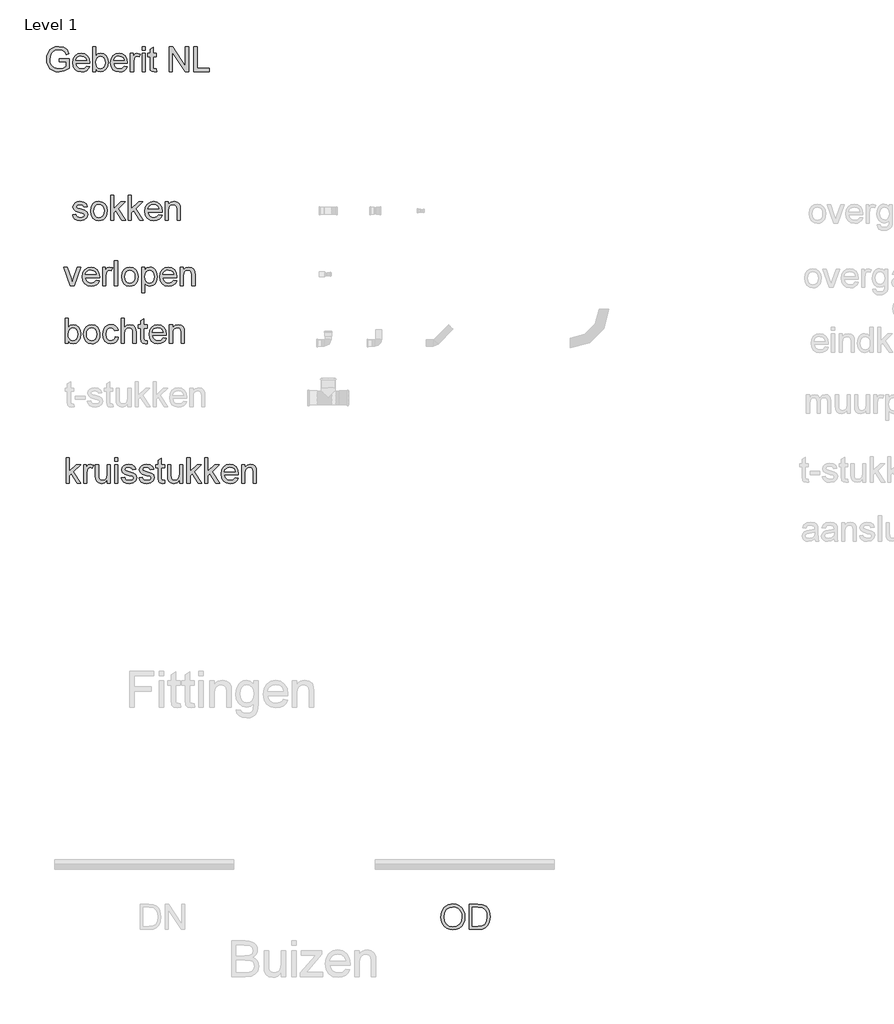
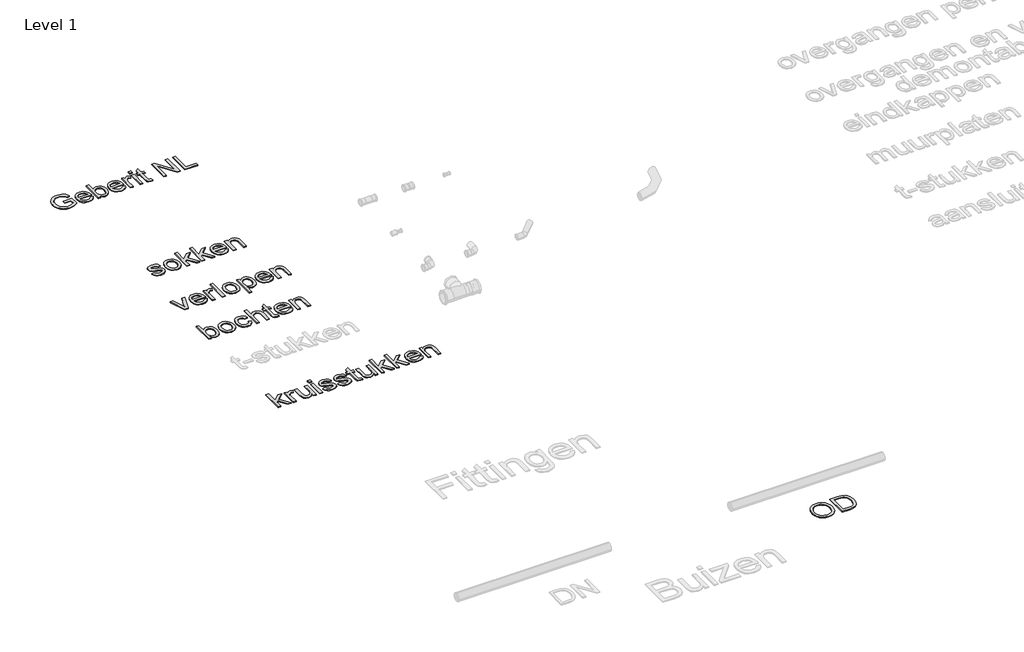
# One storey, part 2 of 7: 6 proxies.
"""IFC4 building model written with IfcOpenShell, lengths in millimetres."""

from ifc_helpers import new_model, si_unit, origin, origin_with_axes, place, context, project, spatial, polyline, outline, extrude, element, save

model = new_model("IFC4")

# Units and contexts
model_context = context("Model", 3, world=origin())
ifc_project = project(units=[si_unit("LENGTHUNIT", "METRE", prefix="MILLI")], contexts=[model_context])

# Site, building, storey
site = spatial("IfcSite", under=ifc_project)
building = spatial("IfcBuilding", under=site)
storey = spatial("IfcBuildingStorey", under=building, Name="Level 1", Elevation=0.0)

# Proxies
placement = place(None, origin())
element("IfcBuildingElementProxy", 1, Name="small", ObjectType="small", at=placement, inside=storey, context=model_context, shape_type="SweptSolid", body=[
    extrude(outline(polyline([(-1914.950544, 6516.8339896), (-1914.950544, 6534.0647588), (-1858.950544, 6534.0647588), (-1858.950544, 6482.5407203), (-1886.5971786, 6466.2859126), (-1915.825544, 6460.8339896), (-1935.1554719, 6463.0004559), (-1952.6260247, 6469.4998549), (-1967.1392459, 6480.1050232), (-1977.5971786, 6494.5887973), (-1983.9198949, 6511.9625953), (-1986.0274671, 6531.2378357), (-1983.9283084, 6550.6518982), (-1977.6308324, 6568.7113934), (-1967.3958565, 6583.8598309), (-1953.4841978, 6594.5407203), (-1936.5394863, 6600.8760569), (-1917.2053517, 6602.9878357), (-1890.2486209, 6598.0912011), (-1871.3519863, 6584.4613934), (-1860.9361209, 6561.6609126), (-1876.8207363, 6557.1849511), (-1884.6789094, 6573.1200473), (-1898.106794, 6582.3075473), (-1917.4745824, 6585.7570665), (-1939.5346786, 6582.0383165), (-1954.544294, 6572.2787011), (-1963.4120824, 6559.0022588), (-1968.7966978, 6531.9445665), (-1967.1771065, 6515.4668021), (-1962.3183324, 6501.9085088), (-1954.3676113, 6491.3664415), (-1943.4721786, 6483.9373549), (-1917.2053517, 6478.0647588), (-1893.6308324, 6482.4902396), (-1876.1813132, 6491.9301434), (-1876.1813132, 6516.8339896), (-1914.950544, 6516.8339896)])), origin_with_axes(), (0.0, 0.0, 1.0), 5.0),
    extrude(outline(polyline([(-1762.2293901, 6493.1416819), (-1745.3351594, 6490.9878357), (-1751.4222988, 6478.2582684), (-1761.1356401, 6468.7426434), (-1774.2564334, 6462.811153), (-1790.5659286, 6460.8339896), (-1810.7834767, 6464.2456482), (-1826.3399671, 6474.4806242), (-1836.2594382, 6490.874254), (-1839.5659286, 6512.7618742), (-1836.2257844, 6535.3856723), (-1826.2053517, 6552.3051434), (-1810.8591978, 6562.8556242), (-1791.5418901, 6566.3724511), (-1772.8261449, 6562.8640376), (-1757.8712171, 6552.3387973), (-1748.0653276, 6535.4529799), (-1744.7966978, 6512.8628357), (-1744.8976594, 6508.2186049), (-1822.3351594, 6508.2186049), (-1819.3525872, 6495.3207684), (-1812.4241017, 6485.8387973), (-1802.4247026, 6480.0082684), (-1790.2293901, 6478.0647588), (-1773.3351594, 6481.6657203), (-1762.2293901, 6493.1416819)]), holes=[polyline([(-1822.3351594, 6525.4493742), (-1762.0274671, 6525.4493742), (-1768.9265055, 6541.0647588), (-1778.9721786, 6547.1224511), (-1791.6091978, 6549.1416819), (-1803.2239815, 6547.530504), (-1812.8279478, 6542.6969703), (-1819.5040296, 6535.1627155), (-1822.3351594, 6525.4493742)])]), origin_with_axes(), (0.0, 0.0, 1.0), 5.0),
    extrude(outline(polyline([(-1710.3351594, 6462.9878357), (-1727.5659286, 6462.9878357), (-1727.5659286, 6600.8339896), (-1710.3351594, 6600.8339896), (-1710.3351594, 6549.7137973), (-1698.2702555, 6562.2077876), (-1683.2774671, 6566.3724511), (-1666.013044, 6562.6200473), (-1652.6188132, 6552.0695665), (-1644.3904478, 6535.6633165), (-1641.4120824, 6515.1176434), (-1644.4956161, 6492.1152396), (-1653.7462171, 6475.0022588), (-1667.3213372, 6464.3760569), (-1683.3784286, 6460.8339896), (-1698.6993421, 6465.4024992), (-1710.3351594, 6479.108028), (-1710.3351594, 6462.9878357)]), holes=[polyline([(-1710.3351594, 6514.3099511), (-1709.1572747, 6499.9397588), (-1705.6236209, 6490.2137973), (-1696.5959767, 6481.1020184), (-1684.8591978, 6478.0647588), (-1674.9144863, 6480.3027396), (-1666.4168901, 6487.0166819), (-1660.5863613, 6498.1645184), (-1658.6428517, 6513.7041819), (-1660.5064334, 6529.4710088), (-1666.0971786, 6540.4926434), (-1674.3297507, 6546.9794223), (-1684.1188132, 6549.1416819), (-1694.0635247, 6546.9037011), (-1702.5611209, 6540.1897588), (-1708.3916497, 6529.2438453), (-1710.3351594, 6514.3099511)])]), origin_with_axes(), (0.0, 0.0, 1.0), 5.0),
    extrude(outline(polyline([(-1551.1524671, 6493.1416819), (-1534.2582363, 6490.9878357), (-1540.3453757, 6478.2582684), (-1550.0587171, 6468.7426434), (-1563.1795103, 6462.811153), (-1579.4890055, 6460.8339896), (-1599.7065536, 6464.2456482), (-1615.263044, 6474.4806242), (-1625.1825151, 6490.874254), (-1628.4890055, 6512.7618742), (-1625.1488613, 6535.3856723), (-1615.1284286, 6552.3051434), (-1599.7822747, 6562.8556242), (-1580.4649671, 6566.3724511), (-1561.7492219, 6562.8640376), (-1546.794294, 6552.3387973), (-1536.9884046, 6535.4529799), (-1533.7197747, 6512.8628357), (-1533.8207363, 6508.2186049), (-1611.2582363, 6508.2186049), (-1608.2756642, 6495.3207684), (-1601.3471786, 6485.8387973), (-1591.3477796, 6480.0082684), (-1579.1524671, 6478.0647588), (-1562.2582363, 6481.6657203), (-1551.1524671, 6493.1416819)]), holes=[polyline([(-1611.2582363, 6525.4493742), (-1550.950544, 6525.4493742), (-1557.8495824, 6541.0647588), (-1567.8952555, 6547.1224511), (-1580.5322747, 6549.1416819), (-1592.1470584, 6547.530504), (-1601.7510247, 6542.6969703), (-1608.4271065, 6535.1627155), (-1611.2582363, 6525.4493742)])]), origin_with_axes(), (0.0, 0.0, 1.0), 5.0),
    extrude(outline(polyline([(-1516.4890055, 6462.9878357), (-1516.4890055, 6564.2186049), (-1501.4120824, 6564.2186049), (-1501.4120824, 6549.2426434), (-1490.7101594, 6563.0407203), (-1479.9409286, 6566.3724511), (-1462.6428517, 6561.0551434), (-1468.3976594, 6545.608028), (-1480.513044, 6549.1416819), (-1490.2558324, 6545.7426434), (-1496.4649671, 6536.3195665), (-1499.2582363, 6516.1945665), (-1499.2582363, 6462.9878357), (-1516.4890055, 6462.9878357)])), origin_with_axes(), (0.0, 0.0, 1.0), 5.0),
    extrude(outline(polyline([(-1451.8736209, 6462.9878357), (-1451.8736209, 6564.2186049), (-1434.6428517, 6564.2186049), (-1434.6428517, 6462.9878357), (-1451.8736209, 6462.9878357)])), origin_with_axes(), (0.0, 0.0, 1.0), 5.0),
    extrude(outline(polyline([(-1451.8736209, 6583.6032203), (-1451.8736209, 6600.8339896), (-1434.6428517, 6600.8339896), (-1434.6428517, 6583.6032203), (-1451.8736209, 6583.6032203)])), origin_with_axes(), (0.0, 0.0, 1.0), 5.0),
    extrude(outline(polyline([(-1372.1813132, 6477.358028), (-1370.0274671, 6462.483028), (-1382.9168901, 6460.8339896), (-1397.3543901, 6463.6945665), (-1404.5563132, 6471.1993742), (-1406.6428517, 6490.7522588), (-1406.6428517, 6546.9878357), (-1419.5659286, 6546.9878357), (-1419.5659286, 6564.2186049), (-1406.6428517, 6564.2186049), (-1406.6428517, 6588.8195665), (-1389.4120824, 6598.9493742), (-1389.4120824, 6564.2186049), (-1372.1813132, 6564.2186049), (-1372.1813132, 6546.9878357), (-1389.4120824, 6546.9878357), (-1389.4120824, 6491.2570665), (-1388.5034286, 6482.3724511), (-1385.5587171, 6479.2258165), (-1379.6861209, 6478.0647588), (-1372.1813132, 6477.358028)])), origin_with_axes(), (0.0, 0.0, 1.0), 5.0),
    extrude(outline(polyline([(-1298.950544, 6462.9878357), (-1298.950544, 6600.8339896), (-1280.5082363, 6600.8339896), (-1208.4890055, 6491.6272588), (-1208.4890055, 6600.8339896), (-1191.2582363, 6600.8339896), (-1191.2582363, 6462.9878357), (-1209.700544, 6462.9878357), (-1281.7197747, 6572.2282203), (-1281.7197747, 6462.9878357), (-1298.950544, 6462.9878357)])), origin_with_axes(), (0.0, 0.0, 1.0), 5.0),
    extrude(outline(polyline([(-1161.1043901, 6462.9878357), (-1161.1043901, 6600.8339896), (-1143.8736209, 6600.8339896), (-1143.8736209, 6480.2186049), (-1074.950544, 6480.2186049), (-1074.950544, 6462.9878357), (-1161.1043901, 6462.9878357)])), origin_with_axes(), (0.0, 0.0, 1.0), 5.0),
])
element("IfcBuildingElementProxy", 2, Name="small", ObjectType="small", at=placement, inside=storey, context=model_context, shape_type="SweptSolid", body=[
    extrude(outline(polyline([(-1840.2916088, 5661.4703642), (-1822.7117545, 5663.667846), (-1819.9391505, 5656.148338), (-1814.5742048, 5650.6202979), (-1795.9299452, 5646.0879918), (-1778.0067344, 5650.2426058), (-1772.1696735, 5659.9939312), (-1778.0410701, 5667.8911313), (-1796.1359592, 5672.9041367), (-1822.6087475, 5681.5052177), (-1834.1626947, 5691.5483962), (-1838.094127, 5705.7290208), (-1834.9352469, 5718.8280724), (-1826.316998, 5728.8369152), (-1815.140743, 5734.0387666), (-1800.0158879, 5736.1847449), (-1778.6247762, 5732.7340118), (-1765.0278577, 5723.3947142), (-1758.9847827, 5707.6174817), (-1776.564637, 5705.4199999), (-1783.1742502, 5715.1198219), (-1798.6424618, 5718.6048906), (-1815.4669317, 5715.2743323), (-1820.5142727, 5707.5144748), (-1818.4197979, 5702.3984625), (-1811.8616882, 5698.5185337), (-1796.7196653, 5694.7759475), (-1770.9164221, 5686.5010552), (-1758.9332793, 5677.127422), (-1754.5898192, 5661.8480564), (-1759.6886636, 5645.0235865), (-1774.4014909, 5632.8172619), (-1796.1702948, 5628.5081375), (-1813.8960756, 5630.5854445), (-1826.8320328, 5636.8173655), (-1835.4674495, 5647.1352292), (-1840.2916088, 5661.4703642)])), origin_with_axes(), (0.0, 0.0, 1.0), 5.0),
    extrude(outline(polyline([(-1739.2074467, 5682.3464412), (-1735.4047731, 5707.2483735), (-1723.9967525, 5724.7509725), (-1709.9019669, 5733.3263018), (-1693.0259936, 5736.1847449), (-1674.5577043, 5732.7039681), (-1659.8062494, 5722.2616377), (-1650.1364711, 5705.6818093), (-1646.9132117, 5683.7885386), (-1648.3381413, 5666.0284222), (-1652.6129301, 5652.5087588), (-1659.6131113, 5642.3840332), (-1669.2142183, 5634.8087298), (-1680.617947, 5630.0832856), (-1693.0259936, 5628.5081375), (-1711.7174646, 5631.9760384), (-1726.4517516, 5642.3797412), (-1736.0185229, 5659.3072181), (-1739.2074467, 5682.3464412)]), holes=[polyline([(-1721.6275924, 5682.3807769), (-1719.593205, 5666.4704937), (-1713.4900427, 5655.1354363), (-1704.3052555, 5648.3498529), (-1693.0259936, 5646.0879918), (-1681.7982351, 5648.3627288), (-1672.6306157, 5655.1869398), (-1666.5274534, 5666.6722157), (-1664.493066, 5682.9301473), (-1666.5403293, 5698.3768991), (-1672.6821192, 5709.5574461), (-1681.8626144, 5716.3430295), (-1693.0259936, 5718.6048906), (-1704.3052555, 5716.3516134), (-1713.4900427, 5709.5917818), (-1719.593205, 5698.2824761), (-1721.6275924, 5682.3807769)])]), origin_with_axes(), (0.0, 0.0, 1.0), 5.0),
    extrude(outline(polyline([(-1627.1358757, 5630.7056193), (-1627.1358757, 5771.3444535), (-1609.5560214, 5771.3444535), (-1609.5560214, 5695.7716815), (-1570.1386919, 5733.9872631), (-1545.8290496, 5733.9872631), (-1585.7270783, 5695.2909823), (-1543.6315679, 5630.7056193), (-1564.1642883, 5630.7056193), (-1598.3282629, 5683.0674899), (-1609.5560214, 5672.1830879), (-1609.5560214, 5630.7056193), (-1627.1358757, 5630.7056193)])), origin_with_axes(), (0.0, 0.0, 1.0), 5.0),
    extrude(outline(polyline([(-1528.2491954, 5630.7056193), (-1528.2491954, 5771.3444535), (-1510.6693411, 5771.3444535), (-1510.6693411, 5695.7716815), (-1471.2520116, 5733.9872631), (-1446.9423693, 5733.9872631), (-1486.840398, 5695.2909823), (-1444.7448876, 5630.7056193), (-1465.277608, 5630.7056193), (-1499.4415826, 5683.0674899), (-1510.6693411, 5672.1830879), (-1510.6693411, 5630.7056193), (-1528.2491954, 5630.7056193)])), origin_with_axes(), (0.0, 0.0, 1.0), 5.0),
    extrude(outline(polyline([(-1357.0516301, 5661.4703642), (-1339.8151323, 5659.2728825), (-1346.0255936, 5646.2854218), (-1355.9357214, 5636.5770159), (-1369.322334, 5630.5253571), (-1385.9622498, 5628.5081375), (-1406.5893933, 5631.9889143), (-1422.4610488, 5642.4312447), (-1432.5814825, 5659.1569996), (-1435.9549604, 5681.4880499), (-1432.5471469, 5704.5701925), (-1422.3237062, 5721.832442), (-1406.6666485, 5732.5966692), (-1386.9579838, 5736.1847449), (-1367.8630688, 5732.6052531), (-1352.605163, 5721.8667777), (-1342.6006122, 5704.6388638), (-1339.2657619, 5681.5910568), (-1339.3687689, 5676.8527367), (-1418.3751061, 5676.8527367), (-1415.3321089, 5663.6935978), (-1408.2632564, 5654.0195276), (-1398.0612755, 5648.0708757), (-1385.6188933, 5646.0879918), (-1368.3823955, 5649.7619066), (-1357.0516301, 5661.4703642)]), holes=[polyline([(-1418.3751061, 5694.432591), (-1356.8456162, 5694.432591), (-1363.884425, 5710.364334), (-1374.1336174, 5716.5447515), (-1387.0266551, 5718.6048906), (-1398.8767473, 5716.9610713), (-1408.6752842, 5712.0296131), (-1415.4866193, 5704.3427188), (-1418.3751061, 5694.432591)])]), origin_with_axes(), (0.0, 0.0, 1.0), 5.0),
    extrude(outline(polyline([(-1321.6859076, 5630.7056193), (-1321.6859076, 5733.9872631), (-1304.1060533, 5733.9872631), (-1304.1060533, 5719.5662889), (-1290.6636452, 5732.0301309), (-1272.3112388, 5736.1847449), (-1255.7099506, 5732.8370188), (-1244.3791852, 5724.0470916), (-1239.1086624, 5711.1197183), (-1238.1815998, 5694.1235701), (-1238.1815998, 5630.7056193), (-1255.7614541, 5630.7056193), (-1255.7614541, 5691.7544101), (-1257.7872576, 5707.3084608), (-1264.9462412, 5715.5318497), (-1277.0152232, 5718.6048906), (-1287.3116271, 5716.8795241), (-1296.0886784, 5711.7034244), (-1302.1017096, 5701.7031655), (-1304.1060533, 5685.5053213), (-1304.1060533, 5630.7056193), (-1321.6859076, 5630.7056193)])), origin_with_axes(), (0.0, 0.0, 1.0), 5.0),
])
element("IfcBuildingElementProxy", 3, Name="small", ObjectType="small", at=placement, inside=storey, context=model_context, shape_type="SweptSolid", body=[
    extrude(outline(polyline([(-1852.9133657, 5263.7178127), (-1889.2404865, 5366.9994566), (-1870.6305626, 5366.9994566), (-1848.6214091, 5305.1266101), (-1841.9946281, 5284.3192045), (-1835.5051897, 5303.9591979), (-1813.3586936, 5366.9994566), (-1794.7487698, 5366.9994566), (-1830.629527, 5263.7178127), (-1852.9133657, 5263.7178127)])), origin_with_axes(), (0.0, 0.0, 1.0), 5.0),
    extrude(outline(polyline([(-1707.0555123, 5294.4825577), (-1689.8190145, 5292.2850759), (-1696.0294758, 5279.2976152), (-1705.9396036, 5269.5892094), (-1719.3262162, 5263.5375506), (-1735.966132, 5261.520331), (-1756.5932755, 5265.0011078), (-1772.464931, 5275.4434382), (-1782.5853647, 5292.1691931), (-1785.9588426, 5314.5002434), (-1782.5510291, 5337.582386), (-1772.3275884, 5354.8446355), (-1756.6705307, 5365.6088627), (-1736.961866, 5369.1969384), (-1717.866951, 5365.6174466), (-1702.6090452, 5354.8789712), (-1692.6044944, 5337.6510573), (-1689.2696441, 5314.6032503), (-1689.3726511, 5309.8649302), (-1768.3789883, 5309.8649302), (-1765.3359911, 5296.7057913), (-1758.2671386, 5287.0317211), (-1748.0651577, 5281.0830692), (-1735.6227755, 5279.1001852), (-1718.3862777, 5282.7741001), (-1707.0555123, 5294.4825577)]), holes=[polyline([(-1768.3789883, 5327.4447845), (-1706.8494984, 5327.4447845), (-1713.8883072, 5343.3765274), (-1724.1374996, 5349.556945), (-1737.0305373, 5351.6170841), (-1748.8806295, 5349.9732647), (-1758.6791664, 5345.0418066), (-1765.4905015, 5337.3549123), (-1768.3789883, 5327.4447845)])]), origin_with_axes(), (0.0, 0.0, 1.0), 5.0),
    extrude(outline(polyline([(-1671.6897898, 5263.7178127), (-1671.6897898, 5366.9994566), (-1656.3074173, 5366.9994566), (-1656.3074173, 5351.7200911), (-1645.3886797, 5365.7977088), (-1634.4012708, 5369.1969384), (-1616.7527452, 5363.7719053), (-1622.6241419, 5348.0118406), (-1634.9849769, 5351.6170841), (-1644.9251484, 5348.1491832), (-1651.2600764, 5338.5352004), (-1654.1099355, 5318.00248), (-1654.1099355, 5263.7178127), (-1671.6897898, 5263.7178127)])), origin_with_axes(), (0.0, 0.0, 1.0), 5.0),
    extrude(outline(polyline([(-1605.7653363, 5263.7178127), (-1605.7653363, 5404.356647), (-1588.185482, 5404.356647), (-1588.185482, 5263.7178127), (-1605.7653363, 5263.7178127)])), origin_with_axes(), (0.0, 0.0, 1.0), 5.0),
    extrude(outline(polyline([(-1566.2106642, 5315.3586347), (-1562.4079906, 5340.2605669), (-1550.9999699, 5357.763166), (-1536.9051844, 5366.3384953), (-1520.029211, 5369.1969384), (-1501.5609217, 5365.7161616), (-1486.8094669, 5355.2738312), (-1477.1396886, 5338.6940028), (-1473.9164292, 5316.8007321), (-1475.3413588, 5299.0406157), (-1479.6161476, 5285.5209523), (-1486.6163288, 5275.3962267), (-1496.2174358, 5267.8209233), (-1507.6211645, 5263.095479), (-1520.029211, 5261.520331), (-1538.7206821, 5264.9882319), (-1553.4549691, 5275.3919347), (-1563.0217404, 5292.3194116), (-1566.2106642, 5315.3586347)]), holes=[polyline([(-1548.6308099, 5315.3929703), (-1546.5964225, 5299.4826872), (-1540.4932602, 5288.1476298), (-1531.308473, 5281.3620464), (-1520.029211, 5279.1001852), (-1508.8014525, 5281.3749222), (-1499.6338332, 5288.1991333), (-1493.5306709, 5299.6844091), (-1491.4962835, 5315.9423408), (-1493.5435468, 5331.3890926), (-1499.6853367, 5342.5696396), (-1508.8658319, 5349.355223), (-1520.029211, 5351.6170841), (-1531.308473, 5349.3638069), (-1540.4932602, 5342.6039752), (-1546.5964225, 5331.2946696), (-1548.6308099, 5315.3929703)])]), origin_with_axes(), (0.0, 0.0, 1.0), 5.0),
    extrude(outline(polyline([(-1454.1390932, 5224.1631406), (-1454.1390932, 5366.9994566), (-1436.5592389, 5366.9994566), (-1436.5592389, 5349.7629589), (-1424.4044178, 5364.3384435), (-1407.9919757, 5369.1969384), (-1396.1032559, 5367.4973236), (-1385.708137, 5362.3984791), (-1377.2443985, 5354.2094259), (-1371.1498201, 5343.2391848), (-1366.2398218, 5316.1483547), (-1371.7850297, 5287.6669306), (-1378.583489, 5276.4906756), (-1387.8884509, 5268.2672868), (-1398.7256414, 5263.2070699), (-1410.1207862, 5261.520331), (-1425.4173195, 5266.0354693), (-1436.5592389, 5277.4520739), (-1436.5592389, 5224.1631406), (-1454.1390932, 5224.1631406)]), holes=[polyline([(-1436.5592389, 5314.534579), (-1434.6579021, 5298.7745143), (-1428.9538918, 5287.7527698), (-1420.5373649, 5281.2633314), (-1410.4984783, 5279.1001852), (-1400.2964975, 5281.3405866), (-1391.6653727, 5288.0617906), (-1385.7811002, 5299.4869791), (-1383.8196761, 5315.8393338), (-1385.7338887, 5331.5135594), (-1391.4765266, 5342.6898144), (-1399.8801777, 5349.3852667), (-1409.7774296, 5351.6170841), (-1419.7133092, 5349.2436321), (-1428.438857, 5342.1232761), (-1434.5291434, 5330.4791978), (-1436.5592389, 5314.534579)])]), origin_with_axes(), (0.0, 0.0, 1.0), 5.0),
    extrude(outline(polyline([(-1274.1516007, 5294.4825577), (-1256.915103, 5292.2850759), (-1263.1255642, 5279.2976152), (-1273.035692, 5269.5892094), (-1286.4223047, 5263.5375506), (-1303.0622205, 5261.520331), (-1323.6893639, 5265.0011078), (-1339.5610195, 5275.4434382), (-1349.6814532, 5292.1691931), (-1353.0549311, 5314.5002434), (-1349.6471175, 5337.582386), (-1339.4236769, 5354.8446355), (-1323.7666192, 5365.6088627), (-1304.0579544, 5369.1969384), (-1284.9630394, 5365.6174466), (-1269.7051337, 5354.8789712), (-1259.7005828, 5337.6510573), (-1256.3657325, 5314.6032503), (-1256.4687395, 5309.8649302), (-1335.4750768, 5309.8649302), (-1332.4320796, 5296.7057913), (-1325.363227, 5287.0317211), (-1315.1612462, 5281.0830692), (-1302.7188639, 5279.1001852), (-1285.4823662, 5282.7741001), (-1274.1516007, 5294.4825577)]), holes=[polyline([(-1335.4750768, 5327.4447845), (-1273.9455868, 5327.4447845), (-1280.9843957, 5343.3765274), (-1291.2335881, 5349.556945), (-1304.1266257, 5351.6170841), (-1315.9767179, 5349.9732647), (-1325.7752549, 5345.0418066), (-1332.58659, 5337.3549123), (-1335.4750768, 5327.4447845)])]), origin_with_axes(), (0.0, 0.0, 1.0), 5.0),
    extrude(outline(polyline([(-1238.7858783, 5263.7178127), (-1238.7858783, 5366.9994566), (-1221.206024, 5366.9994566), (-1221.206024, 5352.5784824), (-1207.7636159, 5365.0423244), (-1189.4112094, 5369.1969384), (-1172.8099213, 5365.8492123), (-1161.4791558, 5357.0592851), (-1156.2086331, 5344.1319118), (-1155.2815705, 5327.1357636), (-1155.2815705, 5263.7178127), (-1172.8614247, 5263.7178127), (-1172.8614247, 5324.7666036), (-1174.8872283, 5340.3206543), (-1182.0462119, 5348.5440432), (-1194.1151939, 5351.6170841), (-1204.4115978, 5349.8917176), (-1213.188649, 5344.7156179), (-1219.2016803, 5334.715359), (-1221.206024, 5318.5175148), (-1221.206024, 5263.7178127), (-1238.7858783, 5263.7178127)])), origin_with_axes(), (0.0, 0.0, 1.0), 5.0),
])
element("IfcBuildingElementProxy", 4, Name="small", ObjectType="small", at=placement, inside=storey, context=model_context, shape_type="SweptSolid", body=[
    extrude(outline(polyline([(-1865.0278069, 4941.5249471), (-1882.6076612, 4941.5249471), (-1882.6076612, 5082.1637813), (-1865.0278069, 5082.1637813), (-1865.0278069, 5030.0079246), (-1852.7184754, 5042.7550357), (-1837.421942, 5047.0040728), (-1819.8077521, 5043.1756475), (-1806.1421622, 5032.4114203), (-1797.7470951, 5015.6727895), (-1794.7083898, 4994.7108734), (-1797.854394, 4971.2424547), (-1807.2924066, 4953.7827752), (-1821.1425506, 4942.9412928), (-1837.524949, 4939.3274653), (-1853.1562549, 4943.9885302), (-1865.0278069, 4957.9717248), (-1865.0278069, 4941.5249471)]), holes=[polyline([(-1865.0278069, 4993.8868177), (-1863.8260591, 4979.225494), (-1860.2208155, 4969.3024903), (-1851.0102766, 4960.0061123), (-1839.0357177, 4956.9073196), (-1828.8895323, 4959.1906405), (-1820.2197799, 4966.0406033), (-1814.271128, 4977.4142883), (-1812.2882441, 4993.268776), (-1814.1895809, 5009.3550294), (-1819.8935912, 5020.5999557), (-1828.2929503, 5027.2181528), (-1838.2803333, 5029.4242185), (-1848.4265188, 5027.1408976), (-1857.0962711, 5020.2909348), (-1863.044923, 5009.1232637), (-1865.0278069, 4993.8868177)])]), origin_with_axes(), (0.0, 0.0, 1.0), 5.0),
    extrude(outline(polyline([(-1779.3260173, 4993.165769), (-1775.5233438, 5018.0677013), (-1764.1153231, 5035.5703003), (-1750.0205376, 5044.1456297), (-1733.1445642, 5047.0040728), (-1714.6762749, 5043.5232959), (-1699.92482, 5033.0809655), (-1690.2550418, 5016.5011371), (-1687.0317824, 4994.6078665), (-1688.456712, 4976.84775), (-1692.7315008, 4963.3280867), (-1699.731682, 4953.203361), (-1709.3327889, 4945.6280576), (-1720.7365176, 4940.9026134), (-1733.1445642, 4939.3274653), (-1751.8360352, 4942.7953663), (-1766.5703223, 4953.1990691), (-1776.1370936, 4970.126546), (-1779.3260173, 4993.165769)]), holes=[polyline([(-1761.746163, 4993.2001047), (-1759.7117756, 4977.2898215), (-1753.6086133, 4965.9547641), (-1744.4238262, 4959.1691807), (-1733.1445642, 4956.9073196), (-1721.9168057, 4959.1820566), (-1712.7491864, 4966.0062676), (-1706.6460241, 4977.4915435), (-1704.6116366, 4993.7494751), (-1706.6589, 5009.196227), (-1712.8006899, 5020.3767739), (-1721.9811851, 5027.1623573), (-1733.1445642, 5029.4242185), (-1744.4238262, 5027.1709413), (-1753.6086133, 5020.4111096), (-1759.7117756, 5009.1018039), (-1761.746163, 4993.2001047)])]), origin_with_axes(), (0.0, 0.0, 1.0), 5.0),
    extrude(outline(polyline([(-1601.3299928, 4978.8821374), (-1583.7501385, 4976.6846557), (-1588.651553, 4961.0490577), (-1597.8620918, 4949.2333012), (-1610.5147799, 4941.8039243), (-1625.742642, 4939.3274653), (-1644.4426969, 4942.7824904), (-1659.0653931, 4953.1475656), (-1668.5034057, 4969.9677436), (-1671.6494099, 4992.7880769), (-1666.2758802, 5021.9905496), (-1659.4945888, 5032.9393309), (-1649.8977738, 5040.7549839), (-1638.4167898, 5045.4418006), (-1625.9829915, 5047.0040728), (-1611.1285297, 5044.8580945), (-1599.2526858, 5038.4201595), (-1590.7331519, 5028.0336245), (-1585.9476203, 5014.041846), (-1603.5274746, 5011.8443642), (-1611.6821921, 5025.0120871), (-1625.8456489, 5029.4242185), (-1637.2064581, 5027.2524884), (-1646.2238589, 5020.7372983), (-1652.1081314, 5009.5267076), (-1654.0695556, 4993.268776), (-1652.151051, 4976.7919546), (-1646.3955372, 4965.5427363), (-1637.5412307, 4959.0661738), (-1626.3263481, 4956.9073196), (-1609.7593956, 4962.2980171), (-1604.3300704, 4969.1393959), (-1601.3299928, 4978.8821374)])), origin_with_axes(), (0.0, 0.0, 1.0), 5.0),
    extrude(outline(polyline([(-1568.367766, 4941.5249471), (-1568.367766, 5082.1637813), (-1550.7879117, 5082.1637813), (-1550.7879117, 5030.4542881), (-1537.0794023, 5042.8666266), (-1520.194845, 5047.0040728), (-1500.4518446, 5042.4889344), (-1488.4687018, 5030.0079246), (-1484.8634582, 5006.9000302), (-1484.8634582, 4941.5249471), (-1502.4433125, 4941.5249471), (-1502.4433125, 5005.0802406), (-1503.8424903, 5016.0848173), (-1508.0400239, 5023.6214931), (-1514.8041475, 5027.9735371), (-1523.9030955, 5029.4242185), (-1538.3069019, 5025.5099541), (-1547.9208847, 5014.9002373), (-1550.7879117, 4996.3933204), (-1550.7879117, 4941.5249471), (-1568.367766, 4941.5249471)])), origin_with_axes(), (0.0, 0.0, 1.0), 5.0),
    extrude(outline(polyline([(-1423.3339682, 4956.1862709), (-1421.1364864, 4941.0099123), (-1434.2870415, 4939.3274653), (-1449.0170366, 4942.2459958), (-1456.3648663, 4949.9028464), (-1458.4936768, 4969.8518607), (-1458.4936768, 5027.2267367), (-1471.6785675, 5027.2267367), (-1471.6785675, 5044.806591), (-1458.4936768, 5044.806591), (-1458.4936768, 5069.9059532), (-1440.9138225, 5080.2409847), (-1440.9138225, 5044.806591), (-1423.3339682, 5044.806591), (-1423.3339682, 5027.2267367), (-1440.9138225, 5027.2267367), (-1440.9138225, 4970.3668955), (-1439.9867599, 4961.3022832), (-1436.9823903, 4958.0918996), (-1430.9908188, 4956.9073196), (-1423.3339682, 4956.1862709)])), origin_with_axes(), (0.0, 0.0, 1.0), 5.0),
    extrude(outline(polyline([(-1333.443229, 4972.2896921), (-1316.2067312, 4970.0922103), (-1322.4171925, 4957.1047496), (-1332.3273203, 4947.3963437), (-1345.7139329, 4941.3446849), (-1362.3538487, 4939.3274653), (-1382.9809922, 4942.8082421), (-1398.8526477, 4953.2505726), (-1408.9730814, 4969.9763275), (-1412.3465593, 4992.3073777), (-1408.9387458, 5015.3895204), (-1398.7153051, 5032.6517699), (-1383.0582474, 5043.415997), (-1363.3495826, 5047.0040728), (-1344.2546677, 5043.4245809), (-1328.9967619, 5032.6861055), (-1318.9922111, 5015.4581917), (-1315.6573608, 4992.4103847), (-1315.7603677, 4987.6720646), (-1394.766705, 4987.6720646), (-1391.7237078, 4974.5129256), (-1384.6548553, 4964.8388554), (-1374.4528744, 4958.8902035), (-1362.0104922, 4956.9073196), (-1344.7739944, 4960.5812345), (-1333.443229, 4972.2896921)]), holes=[polyline([(-1394.766705, 5005.2519189), (-1333.2372151, 5005.2519189), (-1340.2760239, 5021.1836618), (-1350.5252163, 5027.3640793), (-1363.4182539, 5029.4242185), (-1375.2683462, 5027.7803991), (-1385.0668831, 5022.848941), (-1391.8782182, 5015.1620467), (-1394.766705, 5005.2519189)])]), origin_with_axes(), (0.0, 0.0, 1.0), 5.0),
    extrude(outline(polyline([(-1298.0775065, 4941.5249471), (-1298.0775065, 5044.806591), (-1280.4976522, 5044.806591), (-1280.4976522, 5030.3856168), (-1267.0552441, 5042.8494588), (-1248.7028377, 5047.0040728), (-1232.1015495, 5043.6563466), (-1220.770784, 5034.8664195), (-1215.5002613, 5021.9390462), (-1214.5731987, 5004.942898), (-1214.5731987, 4941.5249471), (-1232.153053, 4941.5249471), (-1232.153053, 5002.5737379), (-1234.1788565, 5018.1277887), (-1241.3378401, 5026.3511775), (-1253.4068221, 5029.4242185), (-1263.703226, 5027.6988519), (-1272.4802773, 5022.5227523), (-1278.4933085, 5012.5224933), (-1280.4976522, 4996.3246491), (-1280.4976522, 4941.5249471), (-1298.0775065, 4941.5249471)])), origin_with_axes(), (0.0, 0.0, 1.0), 5.0),
])
element("IfcBuildingElementProxy", 5, Name="small", ObjectType="small", at=placement, inside=storey, context=model_context, shape_type="SweptSolid", body=[
    extrude(outline(polyline([(-1877.0620404, 4160.0304932), (-1877.0620404, 4300.6693274), (-1859.4821861, 4300.6693274), (-1859.4821861, 4225.0965554), (-1820.0648566, 4263.3121371), (-1795.7552144, 4263.3121371), (-1835.653243, 4224.6158563), (-1793.5577326, 4160.0304932), (-1814.090453, 4160.0304932), (-1848.2544277, 4212.3923638), (-1859.4821861, 4201.5079619), (-1859.4821861, 4160.0304932), (-1877.0620404, 4160.0304932)])), origin_with_axes(), (0.0, 0.0, 1.0), 5.0),
    extrude(outline(polyline([(-1778.1753601, 4160.0304932), (-1778.1753601, 4263.3121371), (-1762.7929876, 4263.3121371), (-1762.7929876, 4248.0327715), (-1751.87425, 4262.1103892), (-1740.8868411, 4265.5096188), (-1723.2383155, 4260.0845857), (-1729.1097121, 4244.324521), (-1741.4705472, 4247.9297646), (-1751.4107187, 4244.4618636), (-1757.7456467, 4234.8478808), (-1760.5955058, 4214.3151604), (-1760.5955058, 4160.0304932), (-1778.1753601, 4160.0304932)])), origin_with_axes(), (0.0, 0.0, 1.0), 5.0),
    extrude(outline(polyline([(-1646.326453, 4160.0304932), (-1646.326453, 4177.7820257), (-1660.0950499, 4162.820265), (-1678.0525963, 4157.8330114), (-1694.5852132, 4161.335248), (-1705.9846499, 4170.1251751), (-1711.220837, 4183.0697163), (-1712.2509066, 4199.413487), (-1712.2509066, 4263.3121371), (-1694.6710523, 4263.3121371), (-1694.6710523, 4207.6883794), (-1693.6066471, 4189.7651686), (-1686.6536774, 4179.241291), (-1673.5546258, 4175.4128657), (-1658.8761342, 4179.3271301), (-1649.1763122, 4189.9883503), (-1646.326453, 4209.5768403), (-1646.326453, 4263.3121371), (-1628.7465988, 4263.3121371), (-1628.7465988, 4160.0304932), (-1646.326453, 4160.0304932)])), origin_with_axes(), (0.0, 0.0, 1.0), 5.0),
    extrude(outline(polyline([(-1604.5742991, 4160.0304932), (-1604.5742991, 4263.3121371), (-1586.9944449, 4263.3121371), (-1586.9944449, 4160.0304932), (-1604.5742991, 4160.0304932)])), origin_with_axes(), (0.0, 0.0, 1.0), 5.0),
    extrude(outline(polyline([(-1604.5742991, 4283.0894731), (-1604.5742991, 4300.6693274), (-1586.9944449, 4300.6693274), (-1586.9944449, 4283.0894731), (-1604.5742991, 4283.0894731)])), origin_with_axes(), (0.0, 0.0, 1.0), 5.0),
    extrude(outline(polyline([(-1567.2171088, 4190.7952382), (-1549.6372545, 4192.99272), (-1546.8646506, 4185.473212), (-1541.4997048, 4179.9451719), (-1522.8554453, 4175.4128657), (-1504.9322345, 4179.5674797), (-1499.0951735, 4189.3188051), (-1504.9665701, 4197.2160053), (-1523.0614592, 4202.2290106), (-1549.5342476, 4210.8300916), (-1561.0881948, 4220.8732701), (-1565.019627, 4235.0538947), (-1561.860747, 4248.1529463), (-1553.2424981, 4258.1617891), (-1542.0662431, 4263.3636405), (-1526.941388, 4265.5096188), (-1505.5502762, 4262.0588857), (-1491.9533577, 4252.7195881), (-1485.9102828, 4236.9423557), (-1503.4901371, 4234.7448739), (-1510.0997502, 4244.4446958), (-1525.5679619, 4247.9297646), (-1542.3924318, 4244.5992062), (-1547.4397727, 4236.8393487), (-1545.3452979, 4231.7233364), (-1538.7871882, 4227.8434076), (-1523.6451653, 4224.1008215), (-1497.8419222, 4215.8259291), (-1485.8587793, 4206.4522959), (-1481.5153192, 4191.1729304), (-1486.6141637, 4174.3484604), (-1501.3269909, 4162.1421358), (-1523.0957949, 4157.8330114), (-1540.8215757, 4159.9103184), (-1553.7575329, 4166.1422394), (-1562.3929496, 4176.4601031), (-1567.2171088, 4190.7952382)])), origin_with_axes(), (0.0, 0.0, 1.0), 5.0),
    extrude(outline(polyline([(-1468.3304285, 4190.7952382), (-1450.7505742, 4192.99272), (-1447.9779703, 4185.473212), (-1442.6130245, 4179.9451719), (-1423.968765, 4175.4128657), (-1406.0455542, 4179.5674797), (-1400.2084932, 4189.3188051), (-1406.0798898, 4197.2160053), (-1424.1747789, 4202.2290106), (-1450.6475673, 4210.8300916), (-1462.2015145, 4220.8732701), (-1466.1329467, 4235.0538947), (-1462.9740667, 4248.1529463), (-1454.3558178, 4258.1617891), (-1443.1795628, 4263.3636405), (-1428.0547077, 4265.5096188), (-1406.6635959, 4262.0588857), (-1393.0666774, 4252.7195881), (-1387.0236025, 4236.9423557), (-1404.6034568, 4234.7448739), (-1411.2130699, 4244.4446958), (-1426.6812816, 4247.9297646), (-1443.5057515, 4244.5992062), (-1448.5530924, 4236.8393487), (-1446.4586176, 4231.7233364), (-1439.9005079, 4227.8434076), (-1424.758485, 4224.1008215), (-1398.9552419, 4215.8259291), (-1386.972099, 4206.4522959), (-1382.6286389, 4191.1729304), (-1387.7274834, 4174.3484604), (-1402.4403106, 4162.1421358), (-1424.2091145, 4157.8330114), (-1441.9348953, 4159.9103184), (-1454.8708526, 4166.1422394), (-1463.5062693, 4176.4601031), (-1468.3304285, 4190.7952382)])), origin_with_axes(), (0.0, 0.0, 1.0), 5.0),
    extrude(outline(polyline([(-1325.4941125, 4174.691817), (-1323.2966307, 4159.5154584), (-1336.4471858, 4157.8330114), (-1351.1771809, 4160.7515419), (-1358.5250106, 4168.4083925), (-1360.6538211, 4188.3574068), (-1360.6538211, 4245.7322828), (-1373.8387118, 4245.7322828), (-1373.8387118, 4263.3121371), (-1360.6538211, 4263.3121371), (-1360.6538211, 4288.4114993), (-1343.0739668, 4298.7465308), (-1343.0739668, 4263.3121371), (-1325.4941125, 4263.3121371), (-1325.4941125, 4245.7322828), (-1343.0739668, 4245.7322828), (-1343.0739668, 4188.8724416), (-1342.1469042, 4179.8078293), (-1339.1425345, 4176.5974457), (-1333.1509631, 4175.4128657), (-1325.4941125, 4174.691817)])), origin_with_axes(), (0.0, 0.0, 1.0), 5.0),
    extrude(outline(polyline([(-1241.9898047, 4160.0304932), (-1241.9898047, 4177.7820257), (-1255.7584015, 4162.820265), (-1273.715948, 4157.8330114), (-1290.2485648, 4161.335248), (-1301.6480016, 4170.1251751), (-1306.8841886, 4183.0697163), (-1307.9142582, 4199.413487), (-1307.9142582, 4263.3121371), (-1290.334404, 4263.3121371), (-1290.334404, 4207.6883794), (-1289.2699987, 4189.7651686), (-1282.317029, 4179.241291), (-1269.2179774, 4175.4128657), (-1254.5394858, 4179.3271301), (-1244.8396639, 4189.9883503), (-1241.9898047, 4209.5768403), (-1241.9898047, 4263.3121371), (-1224.4099504, 4263.3121371), (-1224.4099504, 4160.0304932), (-1241.9898047, 4160.0304932)])), origin_with_axes(), (0.0, 0.0, 1.0), 5.0),
    extrude(outline(polyline([(-1200.2376508, 4160.0304932), (-1200.2376508, 4300.6693274), (-1182.6577965, 4300.6693274), (-1182.6577965, 4225.0965554), (-1143.240467, 4263.3121371), (-1118.9308248, 4263.3121371), (-1158.8288534, 4224.6158563), (-1116.733343, 4160.0304932), (-1137.2660634, 4160.0304932), (-1171.430038, 4212.3923638), (-1182.6577965, 4201.5079619), (-1182.6577965, 4160.0304932), (-1200.2376508, 4160.0304932)])), origin_with_axes(), (0.0, 0.0, 1.0), 5.0),
    extrude(outline(polyline([(-1101.3509705, 4160.0304932), (-1101.3509705, 4300.6693274), (-1083.7711162, 4300.6693274), (-1083.7711162, 4225.0965554), (-1044.3537867, 4263.3121371), (-1020.0441445, 4263.3121371), (-1059.9421731, 4224.6158563), (-1017.8466627, 4160.0304932), (-1038.3793831, 4160.0304932), (-1072.5433577, 4212.3923638), (-1083.7711162, 4201.5079619), (-1083.7711162, 4160.0304932), (-1101.3509705, 4160.0304932)])), origin_with_axes(), (0.0, 0.0, 1.0), 5.0),
    extrude(outline(polyline([(-930.1534052, 4190.7952382), (-912.9169075, 4188.5977564), (-919.1273687, 4175.6102957), (-929.0374965, 4165.9018898), (-942.4241092, 4159.850231), (-959.0640249, 4157.8330114), (-979.6911684, 4161.3137882), (-995.562824, 4171.7561187), (-1005.6832576, 4188.4818736), (-1009.0567355, 4210.8129238), (-1005.648922, 4233.8950665), (-995.4254813, 4251.1573159), (-979.7684236, 4261.9215431), (-960.0597589, 4265.5096188), (-940.9648439, 4261.930127), (-925.7069382, 4251.1916516), (-915.7023873, 4233.9637378), (-912.367537, 4210.9159308), (-912.470544, 4206.1776107), (-991.4768813, 4206.1776107), (-988.433884, 4193.0184717), (-981.3650315, 4183.3444015), (-971.1630506, 4177.3957496), (-958.7206684, 4175.4128657), (-941.4841707, 4179.0867805), (-930.1534052, 4190.7952382)]), holes=[polyline([(-991.4768813, 4223.7574649), (-929.9473913, 4223.7574649), (-936.9862001, 4239.6892079), (-947.2353925, 4245.8696254), (-960.1284302, 4247.9297646), (-971.9785224, 4246.2859452), (-981.7770593, 4241.354487), (-988.5883945, 4233.6675928), (-991.4768813, 4223.7574649)])]), origin_with_axes(), (0.0, 0.0, 1.0), 5.0),
    extrude(outline(polyline([(-894.7876827, 4160.0304932), (-894.7876827, 4263.3121371), (-877.2078285, 4263.3121371), (-877.2078285, 4248.8911629), (-863.7654204, 4261.3550049), (-845.4130139, 4265.5096188), (-828.8117257, 4262.1618927), (-817.4809603, 4253.3719656), (-812.2104376, 4240.4445922), (-811.2833749, 4223.4484441), (-811.2833749, 4160.0304932), (-828.8632292, 4160.0304932), (-828.8632292, 4221.079284), (-830.8890327, 4236.6333348), (-838.0480164, 4244.8567236), (-850.1169983, 4247.9297646), (-860.4134022, 4246.204398), (-869.1904535, 4241.0282983), (-875.2034847, 4231.0280394), (-877.2078285, 4214.8301952), (-877.2078285, 4160.0304932), (-894.7876827, 4160.0304932)])), origin_with_axes(), (0.0, 0.0, 1.0), 5.0),
])
element("IfcBuildingElementProxy", 6, Name="small", ObjectType="small", at=placement, inside=storey, context=model_context, shape_type="SweptSolid", body=[
    extrude(outline(polyline([(221.0465338, 1730.9036609), (225.7333504, 1762.0031785), (239.7938003, 1785.5316846), (261.2621673, 1800.3389349), (288.1727352, 1805.274685), (306.6195647, 1802.9570285), (323.1607655, 1796.0040588), (336.8950266, 1784.905059), (346.9210373, 1770.1493122), (353.0499513, 1752.4492831), (355.0929227, 1732.5174366), (352.9426524, 1712.3194888), (346.4918416, 1694.3705262), (336.0967227, 1679.5890277), (322.1135281, 1668.8934718), (305.7139619, 1662.4040334), (288.0697282, 1660.2408873), (269.3396296, 1662.6315071), (252.7040058, 1669.8033666), (239.0040803, 1681.1083803), (229.0810766, 1695.8984628), (223.0551695, 1712.9160708), (221.0465338, 1730.9036609)]), holes=[polyline([(238.6263881, 1730.7319826), (242.1415006, 1708.7314131), (252.686838, 1691.9670305), (268.5370337, 1681.3573138), (287.9667213, 1677.8207415), (307.679678, 1681.3916494), (323.5556255, 1692.1043731), (334.0237077, 1709.3837905), (337.5130684, 1732.6547792), (336.0194675, 1748.2174139), (331.5386648, 1761.6684059), (324.1865431, 1772.6686907), (314.0789853, 1780.8792037), (301.8855366, 1785.990924), (288.2757422, 1787.6948308), (269.3653813, 1784.411484), (253.2877119, 1774.5614435), (242.291719, 1757.0373847), (238.6263881, 1730.7319826)])]), origin_with_axes(), (0.0, 0.0, 1.0), 5.0),
    extrude(outline(polyline([(379.2652223, 1662.4383691), (379.2652223, 1803.0772033), (427.7814998, 1803.0772033), (452.8808621, 1801.0513997), (473.5509251, 1790.9910535), (483.2764988, 1780.2783298), (490.2037168, 1766.9560964), (495.7317569, 1733.5131705), (491.9891707, 1705.1347534), (482.3751879, 1684.6535365), (469.5336537, 1671.8978414), (452.7263517, 1664.8418648), (430.1163242, 1662.4383691), (379.2652223, 1662.4383691)]), holes=[polyline([(396.8450766, 1680.0182233), (427.9531781, 1680.0182233), (450.5803733, 1682.5590616), (463.6279214, 1689.7352131), (474.3234773, 1707.1948926), (478.1519026, 1733.7878557), (476.2763176, 1752.9471501), (470.6495625, 1767.093439), (462.3360425, 1776.8104288), (452.4001629, 1782.6818255), (427.472479, 1785.497349), (396.8450766, 1785.497349), (396.8450766, 1680.0182233)])]), origin_with_axes(), (0.0, 0.0, 1.0), 5.0),
])

save(model, "model.ifc")
